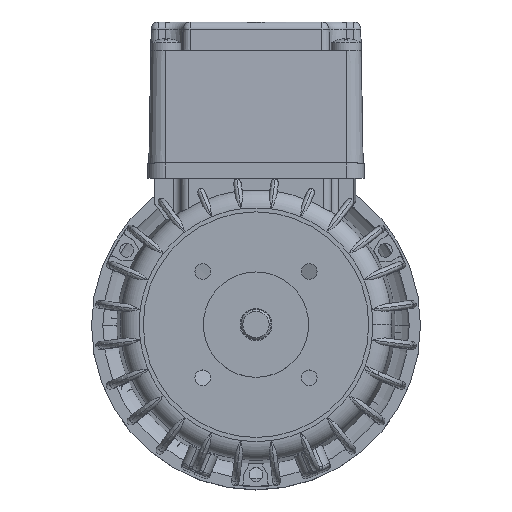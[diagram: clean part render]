
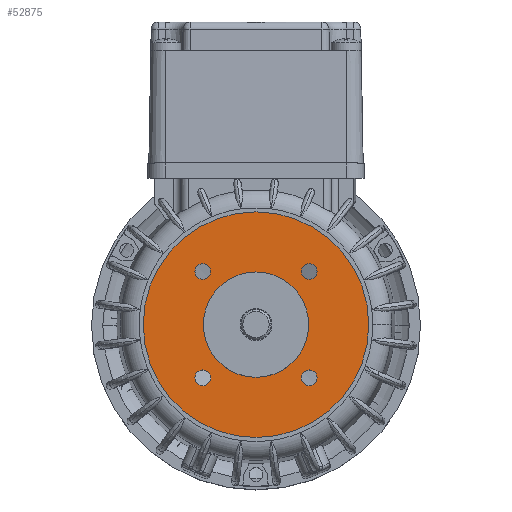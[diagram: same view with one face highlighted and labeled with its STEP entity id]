
A CAD part, top view. The second image highlights one B-rep face of the part: STEP entity #52875.
In plain terms, the highlighted planar face has unit normal (0, 0, 1).
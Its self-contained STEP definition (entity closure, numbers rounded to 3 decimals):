
#8285 = CIRCLE ( 'NONE', #8371, 30. ) ;
#8354 = DIRECTION ( 'NONE',  ( 1., 0., 0. ) ) ;
#8355 = DIRECTION ( 'NONE',  ( 0., 0., 1. ) ) ;
#8371 = AXIS2_PLACEMENT_3D ( 'NONE', #8417, #8355, #8354 ) ;
#8417 = CARTESIAN_POINT ( 'NONE',  ( 0., 0., -6. ) ) ;
#8599 = DIRECTION ( 'NONE',  ( 0., 0., 1. ) ) ;
#8631 = CARTESIAN_POINT ( 'NONE',  ( -14.142, 14.142, -6. ) ) ;
#8634 = CIRCLE ( 'NONE', #8680, 2.1 ) ;
#8676 = DIRECTION ( 'NONE',  ( 1., 0., 0. ) ) ;
#8680 = AXIS2_PLACEMENT_3D ( 'NONE', #8631, #8599, #8676 ) ;
#18236 = CARTESIAN_POINT ( 'NONE',  ( -30., 0., -6. ) ) ;
#18363 = CARTESIAN_POINT ( 'NONE',  ( 16.242, -14.142, -6. ) ) ;
#18531 = CIRCLE ( 'NONE', #18595, 2.1 ) ;
#18584 = DIRECTION ( 'NONE',  ( 1., 0., 0. ) ) ;
#18585 = DIRECTION ( 'NONE',  ( 0., 0., 1. ) ) ;
#18595 = AXIS2_PLACEMENT_3D ( 'NONE', #18599, #18585, #18584 ) ;
#18599 = CARTESIAN_POINT ( 'NONE',  ( 14.142, -14.142, -6. ) ) ;
#18646 = CARTESIAN_POINT ( 'NONE',  ( -12.042, -14.142, -6. ) ) ;
#18657 = CARTESIAN_POINT ( 'NONE',  ( -14.142, -14.142, -6. ) ) ;
#18658 = AXIS2_PLACEMENT_3D ( 'NONE', #18657, #18750, #18748 ) ;
#18717 = CARTESIAN_POINT ( 'NONE',  ( 12.042, 14.142, -6. ) ) ;
#18748 = DIRECTION ( 'NONE',  ( 1., 0., 0. ) ) ;
#18750 = DIRECTION ( 'NONE',  ( 0., 0., 1. ) ) ;
#18772 = CARTESIAN_POINT ( 'NONE',  ( -16.242, -14.142, -6. ) ) ;
#18787 = CIRCLE ( 'NONE', #18658, 2.1 ) ;
#18808 = CARTESIAN_POINT ( 'NONE',  ( -16.242, 14.142, -6. ) ) ;
#18816 = DIRECTION ( 'NONE',  ( 0., 0., 1. ) ) ;
#18875 = CIRCLE ( 'NONE', #19031, 2.1 ) ;
#18927 = CARTESIAN_POINT ( 'NONE',  ( 14.142, 14.142, -6. ) ) ;
#19031 = AXIS2_PLACEMENT_3D ( 'NONE', #18927, #18816, #19038 ) ;
#19038 = DIRECTION ( 'NONE',  ( 1., 0., 0. ) ) ;
#19274 = CARTESIAN_POINT ( 'NONE',  ( 14., 0., -6. ) ) ;
#19276 = CARTESIAN_POINT ( 'NONE',  ( -14., 0., -6. ) ) ;
#19278 = CIRCLE ( 'NONE', #19305, 2.1 ) ;
#19305 = AXIS2_PLACEMENT_3D ( 'NONE', #19556, #19468, #19465 ) ;
#19365 = CARTESIAN_POINT ( 'NONE',  ( 12.042, -14.142, -6. ) ) ;
#19390 = DIRECTION ( 'NONE',  ( 0., 0., 1. ) ) ;
#19392 = CARTESIAN_POINT ( 'NONE',  ( 0., 0., -6. ) ) ;
#19417 = CIRCLE ( 'NONE', #19514, 30. ) ;
#19441 = DIRECTION ( 'NONE',  ( 1., 0., 0. ) ) ;
#19465 = DIRECTION ( 'NONE',  ( 1., 0., 0. ) ) ;
#19468 = DIRECTION ( 'NONE',  ( 0., 0., 1. ) ) ;
#19508 = CARTESIAN_POINT ( 'NONE',  ( 30., 0., -6. ) ) ;
#19510 = CARTESIAN_POINT ( 'NONE',  ( 16.242, 14.142, -6. ) ) ;
#19514 = AXIS2_PLACEMENT_3D ( 'NONE', #19392, #19390, #19441 ) ;
#19556 = CARTESIAN_POINT ( 'NONE',  ( -14.142, 14.142, -6. ) ) ;
#19569 = CARTESIAN_POINT ( 'NONE',  ( -12.042, 14.142, -6. ) ) ;
#19613 = CIRCLE ( 'NONE', #19722, 14. ) ;
#19687 = DIRECTION ( 'NONE',  ( -1., 0., 0. ) ) ;
#19688 = DIRECTION ( 'NONE',  ( 0., 0., -1. ) ) ;
#19711 = CARTESIAN_POINT ( 'NONE',  ( 0., 0., -6. ) ) ;
#19722 = AXIS2_PLACEMENT_3D ( 'NONE', #19711, #19688, #19687 ) ;
#20158 = CIRCLE ( 'NONE', #20218, 2.1 ) ;
#20217 = CARTESIAN_POINT ( 'NONE',  ( -14.142, -14.142, -6. ) ) ;
#20218 = AXIS2_PLACEMENT_3D ( 'NONE', #20217, #20225, #20224 ) ;
#20224 = DIRECTION ( 'NONE',  ( 1., 0., 0. ) ) ;
#20225 = DIRECTION ( 'NONE',  ( 0., 0., 1. ) ) ;
#22250 = DIRECTION ( 'NONE',  ( 1., 0., 0. ) ) ;
#22251 = DIRECTION ( 'NONE',  ( 0., 0., 1. ) ) ;
#22252 = AXIS2_PLACEMENT_3D ( 'NONE', #22293, #22251, #22250 ) ;
#22293 = CARTESIAN_POINT ( 'NONE',  ( 14.142, -14.142, -6. ) ) ;
#22307 = CIRCLE ( 'NONE', #22252, 2.1 ) ;
#22478 = CIRCLE ( 'NONE', #22485, 14. ) ;
#22484 = CARTESIAN_POINT ( 'NONE',  ( 0., 0., -6. ) ) ;
#22485 = AXIS2_PLACEMENT_3D ( 'NONE', #22484, #22500, #22499 ) ;
#22499 = DIRECTION ( 'NONE',  ( -1., 0., 0. ) ) ;
#22500 = DIRECTION ( 'NONE',  ( 0., 0., -1. ) ) ;
#22597 = CARTESIAN_POINT ( 'NONE',  ( 0., 14.75, -6. ) ) ;
#22600 = FACE_BOUND ( 'NONE', #52311, .T. ) ;
#22615 = FACE_BOUND ( 'NONE', #51888, .T. ) ;
#22616 = DIRECTION ( 'NONE',  ( -1., 0., 0. ) ) ;
#22622 = PLANE ( 'NONE',  #22664 ) ;
#22629 = DIRECTION ( 'NONE',  ( 0., 0., -1. ) ) ;
#22630 = FACE_BOUND ( 'NONE', #51884, .T. ) ;
#22657 = FACE_BOUND ( 'NONE', #52878, .T. ) ;
#22664 = AXIS2_PLACEMENT_3D ( 'NONE', #22597, #22629, #22616 ) ;
#22665 = FACE_OUTER_BOUND ( 'NONE', #51882, .T. ) ;
#22666 = FACE_BOUND ( 'NONE', #51878, .T. ) ;
#26558 = DIRECTION ( 'NONE',  ( 1., 0., 0. ) ) ;
#26559 = DIRECTION ( 'NONE',  ( 0., 0., 1. ) ) ;
#26560 = CARTESIAN_POINT ( 'NONE',  ( 14.142, 14.142, -6. ) ) ;
#26561 = AXIS2_PLACEMENT_3D ( 'NONE', #26560, #26559, #26558 ) ;
#26605 = CIRCLE ( 'NONE', #26561, 2.1 ) ;
#27113 = VERTEX_POINT ( 'NONE', #18236 ) ;
#27217 = VERTEX_POINT ( 'NONE', #18363 ) ;
#27258 = EDGE_CURVE ( 'NONE', #27445, #27217, #18531, .T. ) ;
#27275 = VERTEX_POINT ( 'NONE', #18772 ) ;
#27307 = EDGE_CURVE ( 'NONE', #27275, #27353, #18787, .T. ) ;
#27353 = VERTEX_POINT ( 'NONE', #18646 ) ;
#27363 = VERTEX_POINT ( 'NONE', #18717 ) ;
#27380 = VERTEX_POINT ( 'NONE', #18808 ) ;
#27389 = EDGE_CURVE ( 'NONE', #27363, #27462, #18875, .T. ) ;
#27445 = VERTEX_POINT ( 'NONE', #19365 ) ;
#27460 = VERTEX_POINT ( 'NONE', #19276 ) ;
#27461 = VERTEX_POINT ( 'NONE', #19274 ) ;
#27462 = VERTEX_POINT ( 'NONE', #19510 ) ;
#27497 = VERTEX_POINT ( 'NONE', #19508 ) ;
#27510 = EDGE_CURVE ( 'NONE', #27380, #27680, #19278, .T. ) ;
#27551 = EDGE_CURVE ( 'NONE', #27497, #27113, #19417, .T. ) ;
#27580 = EDGE_CURVE ( 'NONE', #27460, #27461, #19613, .T. ) ;
#27680 = VERTEX_POINT ( 'NONE', #19569 ) ;
#51876 = ORIENTED_EDGE ( 'NONE', *, *, #27258, .F. ) ;
#51877 = ORIENTED_EDGE ( 'NONE', *, *, #51881, .T. ) ;
#51878 = EDGE_LOOP ( 'NONE', ( #52130, #52306 ) ) ;
#51879 = ORIENTED_EDGE ( 'NONE', *, *, #27307, .F. ) ;
#51880 = ORIENTED_EDGE ( 'NONE', *, *, #27551, .T. ) ;
#51881 = EDGE_CURVE ( 'NONE', #27113, #27497, #8285, .T. ) ;
#51882 = EDGE_LOOP ( 'NONE', ( #51880, #51877 ) ) ;
#51883 = ORIENTED_EDGE ( 'NONE', *, *, #52858, .T. ) ;
#51884 = EDGE_LOOP ( 'NONE', ( #51890, #51879 ) ) ;
#51885 = ORIENTED_EDGE ( 'NONE', *, *, #52819, .F. ) ;
#51888 = EDGE_LOOP ( 'NONE', ( #52079, #51883 ) ) ;
#51890 = ORIENTED_EDGE ( 'NONE', *, *, #52771, .F. ) ;
#51915 = EDGE_CURVE ( 'NONE', #27680, #27380, #8634, .T. ) ;
#52079 = ORIENTED_EDGE ( 'NONE', *, *, #27580, .T. ) ;
#52130 = ORIENTED_EDGE ( 'NONE', *, *, #51915, .F. ) ;
#52306 = ORIENTED_EDGE ( 'NONE', *, *, #27510, .F. ) ;
#52311 = EDGE_LOOP ( 'NONE', ( #51885, #51876 ) ) ;
#52771 = EDGE_CURVE ( 'NONE', #27353, #27275, #20158, .T. ) ;
#52819 = EDGE_CURVE ( 'NONE', #27217, #27445, #22307, .T. ) ;
#52839 = ORIENTED_EDGE ( 'NONE', *, *, #52879, .F. ) ;
#52858 = EDGE_CURVE ( 'NONE', #27461, #27460, #22478, .T. ) ;
#52872 = ORIENTED_EDGE ( 'NONE', *, *, #27389, .F. ) ;
#52875 = ADVANCED_FACE ( 'NONE', ( #22657, #22600, #22630, #22615, #22665, #22666 ), #22622, .F. ) ;
#52878 = EDGE_LOOP ( 'NONE', ( #52839, #52872 ) ) ;
#52879 = EDGE_CURVE ( 'NONE', #27462, #27363, #26605, .T. ) ;
